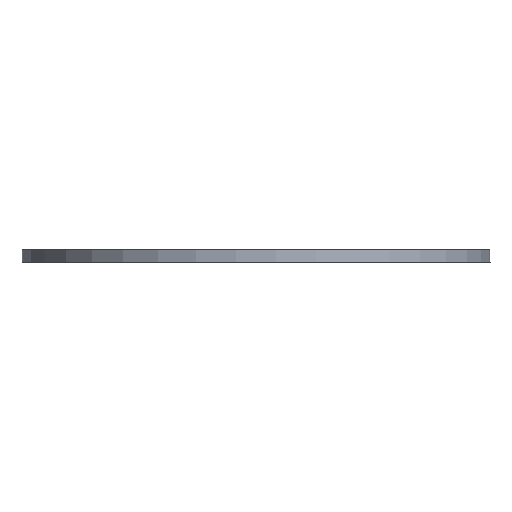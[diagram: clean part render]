
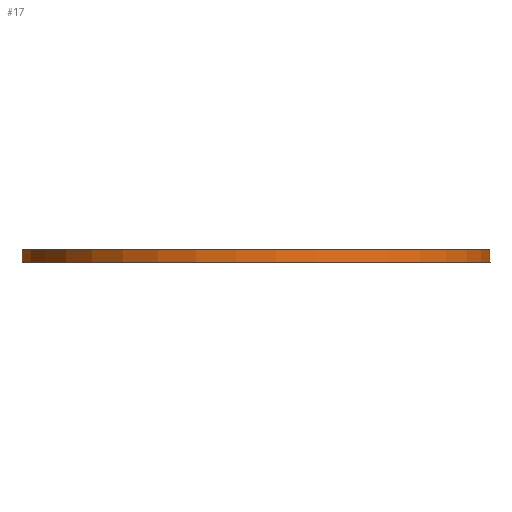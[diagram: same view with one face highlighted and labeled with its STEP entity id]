
A CAD part, left-side view. The second image highlights one B-rep face of the part: STEP entity #17.
In plain terms, the highlighted cylindrical face has radius 150 mm (diameter 300 mm), a partial arc.
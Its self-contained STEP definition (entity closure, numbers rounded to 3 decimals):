
#17 = ADVANCED_FACE('',(#18),#33,.T.);
#18 = FACE_BOUND('',#19,.F.);
#19 = EDGE_LOOP('',(#20,#56,#84,#117));
#20 = ORIENTED_EDGE('',*,*,#21,.F.);
#21 = EDGE_CURVE('',#22,#24,#26,.T.);
#22 = VERTEX_POINT('',#23);
#23 = CARTESIAN_POINT('',(110.5,90.,0.));
#24 = VERTEX_POINT('',#25);
#25 = CARTESIAN_POINT('',(110.5,-90.,0.));
#26 = SURFACE_CURVE('',#27,(#32,#44),.PCURVE_S1.);
#27 = CIRCLE('',#28,150.);
#28 = AXIS2_PLACEMENT_3D('',#29,#30,#31);
#29 = CARTESIAN_POINT('',(-9.5,0.,0.));
#30 = DIRECTION('',(0.,-0.,1.));
#31 = DIRECTION('',(0.8,0.6,0.));
#32 = PCURVE('',#33,#38);
#33 = CYLINDRICAL_SURFACE('',#34,150.);
#34 = AXIS2_PLACEMENT_3D('',#35,#36,#37);
#35 = CARTESIAN_POINT('',(-9.5,0.,0.));
#36 = DIRECTION('',(0.,-0.,-1.));
#37 = DIRECTION('',(0.,1.,0.));
#38 = DEFINITIONAL_REPRESENTATION('',(#39),#43);
#39 = LINE('',#40,#41);
#40 = CARTESIAN_POINT('',(-5.356,0.));
#41 = VECTOR('',#42,1.);
#42 = DIRECTION('',(-1.,0.));
#43 = ( GEOMETRIC_REPRESENTATION_CONTEXT(2) 
PARAMETRIC_REPRESENTATION_CONTEXT() REPRESENTATION_CONTEXT('2D SPACE',''
  ) );
#44 = PCURVE('',#45,#50);
#45 = PLANE('',#46);
#46 = AXIS2_PLACEMENT_3D('',#47,#48,#49);
#47 = CARTESIAN_POINT('',(-9.5,0.,0.));
#48 = DIRECTION('',(0.,0.,1.));
#49 = DIRECTION('',(0.,1.,0.));
#50 = DEFINITIONAL_REPRESENTATION('',(#51),#55);
#51 = CIRCLE('',#52,150.);
#52 = AXIS2_PLACEMENT_2D('',#53,#54);
#53 = CARTESIAN_POINT('',(0.,0.));
#54 = DIRECTION('',(0.6,-0.8));
#55 = ( GEOMETRIC_REPRESENTATION_CONTEXT(2) 
PARAMETRIC_REPRESENTATION_CONTEXT() REPRESENTATION_CONTEXT('2D SPACE',''
  ) );
#56 = ORIENTED_EDGE('',*,*,#57,.F.);
#57 = EDGE_CURVE('',#58,#22,#60,.T.);
#58 = VERTEX_POINT('',#59);
#59 = CARTESIAN_POINT('',(110.5,90.,8.));
#60 = SURFACE_CURVE('',#61,(#65,#72),.PCURVE_S1.);
#61 = LINE('',#62,#63);
#62 = CARTESIAN_POINT('',(110.5,90.,0.));
#63 = VECTOR('',#64,1.);
#64 = DIRECTION('',(0.,-0.,-1.));
#65 = PCURVE('',#33,#66);
#66 = DEFINITIONAL_REPRESENTATION('',(#67),#71);
#67 = LINE('',#68,#69);
#68 = CARTESIAN_POINT('',(-5.356,0.));
#69 = VECTOR('',#70,1.);
#70 = DIRECTION('',(-0.,1.));
#71 = ( GEOMETRIC_REPRESENTATION_CONTEXT(2) 
PARAMETRIC_REPRESENTATION_CONTEXT() REPRESENTATION_CONTEXT('2D SPACE',''
  ) );
#72 = PCURVE('',#73,#78);
#73 = PLANE('',#74);
#74 = AXIS2_PLACEMENT_3D('',#75,#76,#77);
#75 = CARTESIAN_POINT('',(159.5,90.,0.));
#76 = DIRECTION('',(0.,1.,0.));
#77 = DIRECTION('',(0.,0.,1.));
#78 = DEFINITIONAL_REPRESENTATION('',(#79),#83);
#79 = LINE('',#80,#81);
#80 = CARTESIAN_POINT('',(0.,-49.));
#81 = VECTOR('',#82,1.);
#82 = DIRECTION('',(-1.,0.));
#83 = ( GEOMETRIC_REPRESENTATION_CONTEXT(2) 
PARAMETRIC_REPRESENTATION_CONTEXT() REPRESENTATION_CONTEXT('2D SPACE',''
  ) );
#84 = ORIENTED_EDGE('',*,*,#85,.F.);
#85 = EDGE_CURVE('',#86,#58,#88,.T.);
#86 = VERTEX_POINT('',#87);
#87 = CARTESIAN_POINT('',(110.5,-90.,8.));
#88 = SURFACE_CURVE('',#89,(#94,#101),.PCURVE_S1.);
#89 = CIRCLE('',#90,150.);
#90 = AXIS2_PLACEMENT_3D('',#91,#92,#93);
#91 = CARTESIAN_POINT('',(-9.5,0.,8.));
#92 = DIRECTION('',(0.,-0.,-1.));
#93 = DIRECTION('',(0.8,-0.6,0.));
#94 = PCURVE('',#33,#95);
#95 = DEFINITIONAL_REPRESENTATION('',(#96),#100);
#96 = LINE('',#97,#98);
#97 = CARTESIAN_POINT('',(-10.352,-8.));
#98 = VECTOR('',#99,1.);
#99 = DIRECTION('',(1.,-0.));
#100 = ( GEOMETRIC_REPRESENTATION_CONTEXT(2) 
PARAMETRIC_REPRESENTATION_CONTEXT() REPRESENTATION_CONTEXT('2D SPACE',''
  ) );
#101 = PCURVE('',#102,#107);
#102 = PLANE('',#103);
#103 = AXIS2_PLACEMENT_3D('',#104,#105,#106);
#104 = CARTESIAN_POINT('',(-9.5,0.,8.));
#105 = DIRECTION('',(0.,0.,1.));
#106 = DIRECTION('',(0.,1.,0.));
#107 = DEFINITIONAL_REPRESENTATION('',(#108),#116);
#108 = ( BOUNDED_CURVE() B_SPLINE_CURVE(2,(#109,#110,#111,#112,#113,#114
,#115),.UNSPECIFIED.,.T.,.F.) B_SPLINE_CURVE_WITH_KNOTS((1,2,2,2,2,1),(
    -2.094,0.,2.094,4.189,6.283,
8.378),.UNSPECIFIED.) CURVE() GEOMETRIC_REPRESENTATION_ITEM() 
RATIONAL_B_SPLINE_CURVE((1.,0.5,1.,0.5,1.,0.5,1.)) REPRESENTATION_ITEM(
  '') );
#109 = CARTESIAN_POINT('',(-90.,-120.));
#110 = CARTESIAN_POINT('',(-297.846,35.885));
#111 = CARTESIAN_POINT('',(-58.923,137.942));
#112 = CARTESIAN_POINT('',(180.,240.));
#113 = CARTESIAN_POINT('',(148.923,-17.942));
#114 = CARTESIAN_POINT('',(117.846,-275.885));
#115 = CARTESIAN_POINT('',(-90.,-120.));
#116 = ( GEOMETRIC_REPRESENTATION_CONTEXT(2) 
PARAMETRIC_REPRESENTATION_CONTEXT() REPRESENTATION_CONTEXT('2D SPACE',''
  ) );
#117 = ORIENTED_EDGE('',*,*,#118,.T.);
#118 = EDGE_CURVE('',#86,#24,#119,.T.);
#119 = SURFACE_CURVE('',#120,(#124,#131),.PCURVE_S1.);
#120 = LINE('',#121,#122);
#121 = CARTESIAN_POINT('',(110.5,-90.,0.));
#122 = VECTOR('',#123,1.);
#123 = DIRECTION('',(0.,-0.,-1.));
#124 = PCURVE('',#33,#125);
#125 = DEFINITIONAL_REPRESENTATION('',(#126),#130);
#126 = LINE('',#127,#128);
#127 = CARTESIAN_POINT('',(-10.352,0.));
#128 = VECTOR('',#129,1.);
#129 = DIRECTION('',(-0.,1.));
#130 = ( GEOMETRIC_REPRESENTATION_CONTEXT(2) 
PARAMETRIC_REPRESENTATION_CONTEXT() REPRESENTATION_CONTEXT('2D SPACE',''
  ) );
#131 = PCURVE('',#132,#137);
#132 = PLANE('',#133);
#133 = AXIS2_PLACEMENT_3D('',#134,#135,#136);
#134 = CARTESIAN_POINT('',(159.5,-90.,0.));
#135 = DIRECTION('',(0.,1.,0.));
#136 = DIRECTION('',(0.,0.,1.));
#137 = DEFINITIONAL_REPRESENTATION('',(#138),#142);
#138 = LINE('',#139,#140);
#139 = CARTESIAN_POINT('',(0.,-49.));
#140 = VECTOR('',#141,1.);
#141 = DIRECTION('',(-1.,0.));
#142 = ( GEOMETRIC_REPRESENTATION_CONTEXT(2) 
PARAMETRIC_REPRESENTATION_CONTEXT() REPRESENTATION_CONTEXT('2D SPACE',''
  ) );
